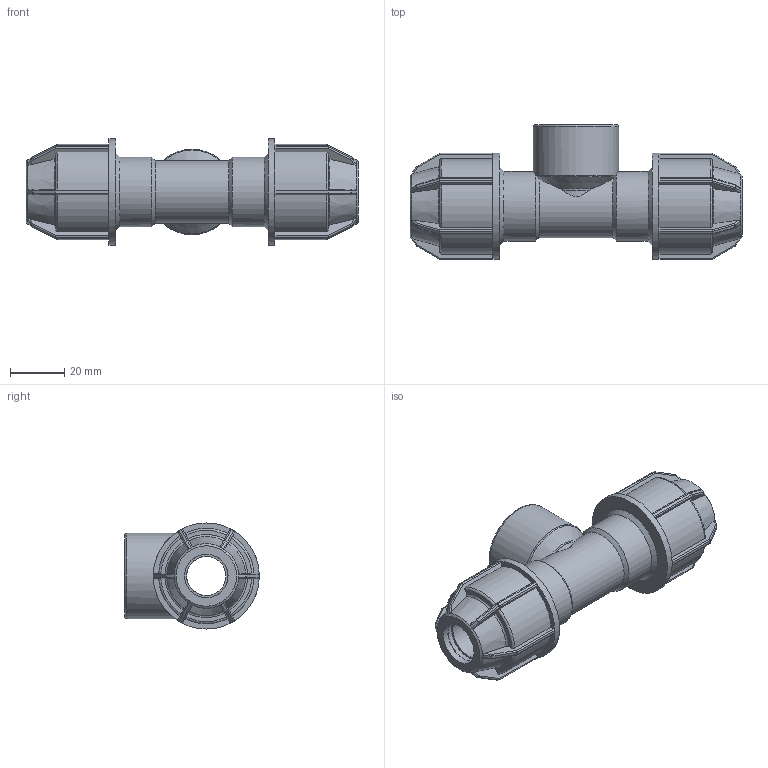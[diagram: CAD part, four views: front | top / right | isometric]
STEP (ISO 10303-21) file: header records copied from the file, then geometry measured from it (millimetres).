
FILE_DESCRIPTION(/* description */ ('PLASSON L.14 TEE FEMALE ADAPTOR (SILVER) 16 x 3/4" x 16'),/* implementation_level */ '2;1');
FILE_NAME(/* name */ 'C:\Dropbox\KIMPROJECTS-Inventor\99-16-3568-Processing\Silver Fittings\141400\141400016007.ipt.stp',/* time_stamp */ '2018-04-16T11:15:44+03:00',/* author */ ('KIM'),/* organization */ (''),/* preprocessor_version */ 'ST-DEVELOPER v15.6',/* originating_system */ 'Autodesk Inventor 2015',/* authorisation */ '');
FILE_SCHEMA (('AUTOMOTIVE_DESIGN { 1 0 10303 214 3 1 1 }'));
Length unit declared in the file: millimetre
Products named in the file (1): 141400016007
Bounding box: 122 x 49.5 x 39 mm (x, y, z)
Volume: 65988.7 mm3; surface area: 25160.6 mm2
Topology: 1 solids, 1 shells, 417 faces, 995 edges, 577 vertices
Faces by surface type: plane 194, cylinder 123, sphere 48, torus 32, cone 20
Full cylindrical faces by diameter (mm): 14.4 x2, 16 x4, 24.117 x1, 25.6 x2, 31.352 x1, 39 x2
Entity records: 12265 total; most frequent: CARTESIAN_POINT 3212, DIRECTION 1892, ORIENTED_EDGE 1878, EDGE_CURVE 939, AXIS2_PLACEMENT_3D 766, VERTEX_POINT 555, EDGE_LOOP 446, FACE_OUTER_BOUND 414
